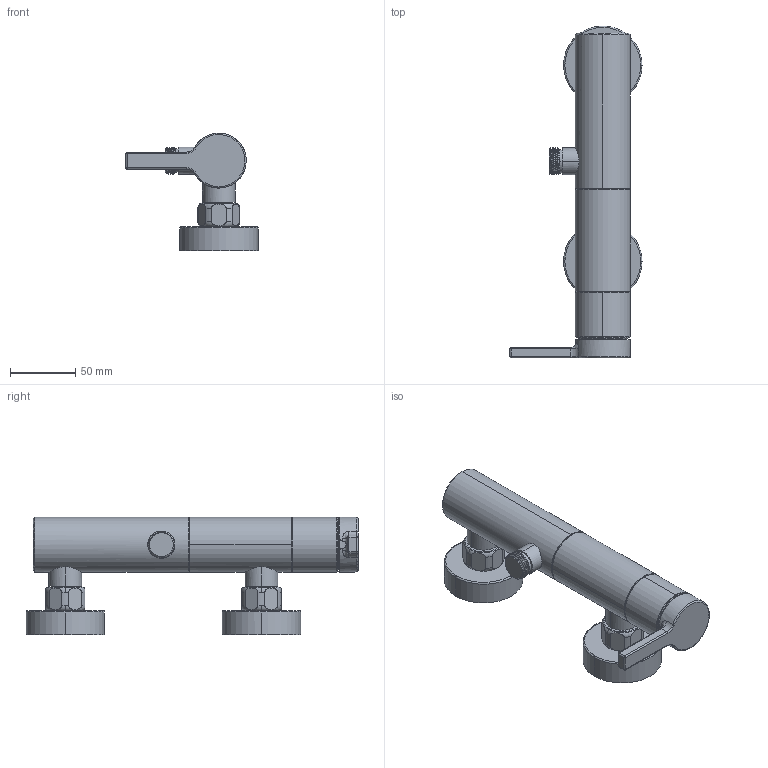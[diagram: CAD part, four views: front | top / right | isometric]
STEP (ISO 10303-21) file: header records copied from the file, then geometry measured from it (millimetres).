
FILE_DESCRIPTION((''),'2;1');
FILE_NAME('DUSCHE_AUFPUTZ_EU_ASM_SW0003','2023-10-11T09:51:30',('YY993'),(''),'CREO PARAMETRIC BY PTC INC, 2022244','CREO PARAMETRIC BY PTC INC, 2022244','');
FILE_SCHEMA(('CONFIG_CONTROL_DESIGN'));
Length unit declared in the file: millimetre
Products named in the file (1): DUSCHE_AUFPUTZ_EU_ASM_SW0003
Bounding box: 101 x 253.85 x 90 mm (x, y, z)
Volume: 498667 mm3; surface area: 62601.5 mm2
Topology: 1 solids, 1 shells, 147 faces, 363 edges, 230 vertices
Faces by surface type: cylinder 58, plane 35, torus 30, bspline 12, cone 8, sphere 4
Entity records: 8160 total; most frequent: CARTESIAN_POINT 4676, DIRECTION 743, ORIENTED_EDGE 718, EDGE_CURVE 359, AXIS2_PLACEMENT_3D 328, VERTEX_POINT 230, CIRCLE 193, EDGE_LOOP 163
